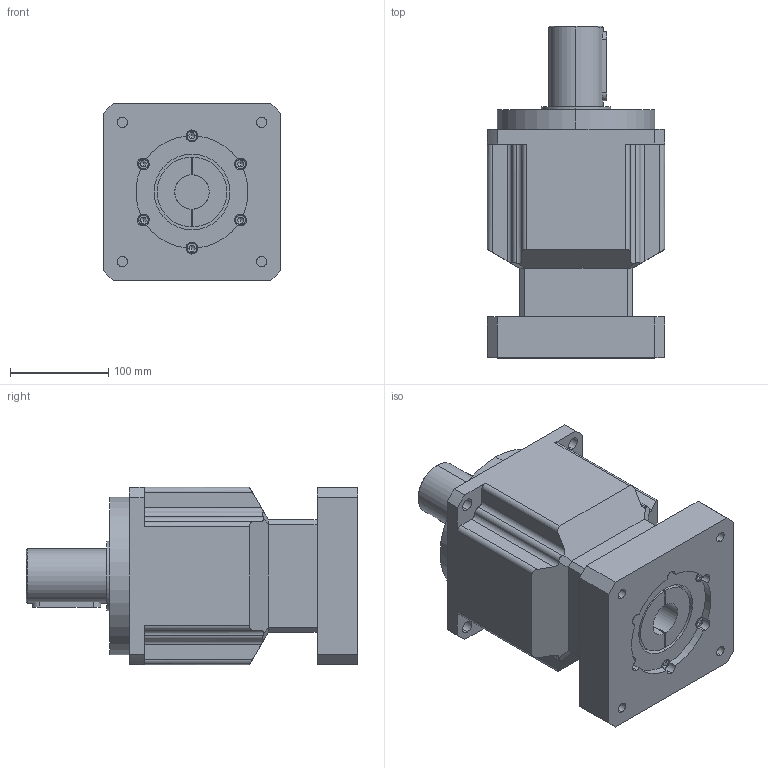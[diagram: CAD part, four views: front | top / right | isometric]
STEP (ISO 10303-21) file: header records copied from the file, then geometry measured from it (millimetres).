
FILE_DESCRIPTION (( 'STEP AP214' ), '1' );
FILE_NAME ('MAB-180-L2.step', '2020-06-27T08:54:12', ( '' ), ( '' ), 'SwSTEP 2.0', 'SolidWorks 2016', '' );
FILE_SCHEMA (( 'AUTOMOTIVE_DESIGN' ));
Length unit declared in the file: millimetre
Products named in the file (2): MAB-180-L2
Assembly tree (1 placements, depth 2):
  MAB-180-L2
    MAB-180-L2
Bounding box: 180.05 x 337 x 180 mm (x, y, z)
Volume: 6281499.2 mm3; surface area: 300380.5 mm2
Topology: 2 solids, 2 shells, 291 faces, 750 edges, 480 vertices
Faces by surface type: plane 141, cylinder 115, cone 31, bspline 4
Entity records: 9273 total; most frequent: CARTESIAN_POINT 2147, ORIENTED_EDGE 1470, DIRECTION 1462, EDGE_CURVE 735, AXIS2_PLACEMENT_3D 517, VERTEX_POINT 480, LINE 428, VECTOR 428
